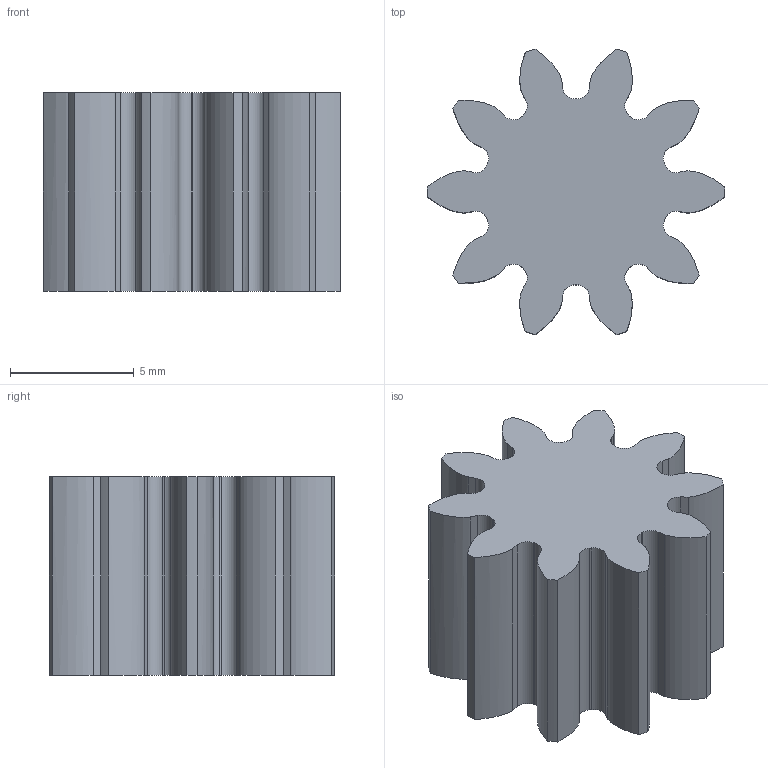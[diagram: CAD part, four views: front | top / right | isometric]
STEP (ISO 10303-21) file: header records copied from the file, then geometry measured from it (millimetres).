
FILE_DESCRIPTION(/* description */ (''),/* implementation_level */ '2;1');
FILE_NAME(/* name */ 'C:/Users/Brandon/Desktop/gears 25deg mod1 fillet.5/10t.step',/* time_stamp */ '2018-01-03T17:31:44-06:00',/* author */ (''),/* organization */ (''),/* preprocessor_version */ 'ST-DEVELOPER v16.13',/* originating_system */ 'Autodesk Translation Framework v6.5.0.72',/* authorisation */ '');
FILE_SCHEMA (('AUTOMOTIVE_DESIGN { 1 0 10303 214 3 1 1 }'));
Length unit declared in the file: millimetre
Products named in the file (2): (Unsaved); Spur Gear (10 teeth)
Assembly tree (1 placements, depth 2):
  (Unsaved)
    Spur Gear (10 teeth)
Bounding box: 12 x 11.53 x 8 mm (x, y, z)
Volume: 605.5 mm3; surface area: 628.6 mm2
Topology: 1 solids, 1 shells, 82 faces, 240 edges, 160 vertices
Faces by surface type: cylinder 40, plane 22, bspline 20
Entity records: 8537 total; most frequent: CARTESIAN_POINT 6425, ORIENTED_EDGE 480, DIRECTION 410, EDGE_CURVE 240, VERTEX_POINT 160, AXIS2_PLACEMENT_3D 145, LINE 120, VECTOR 120
